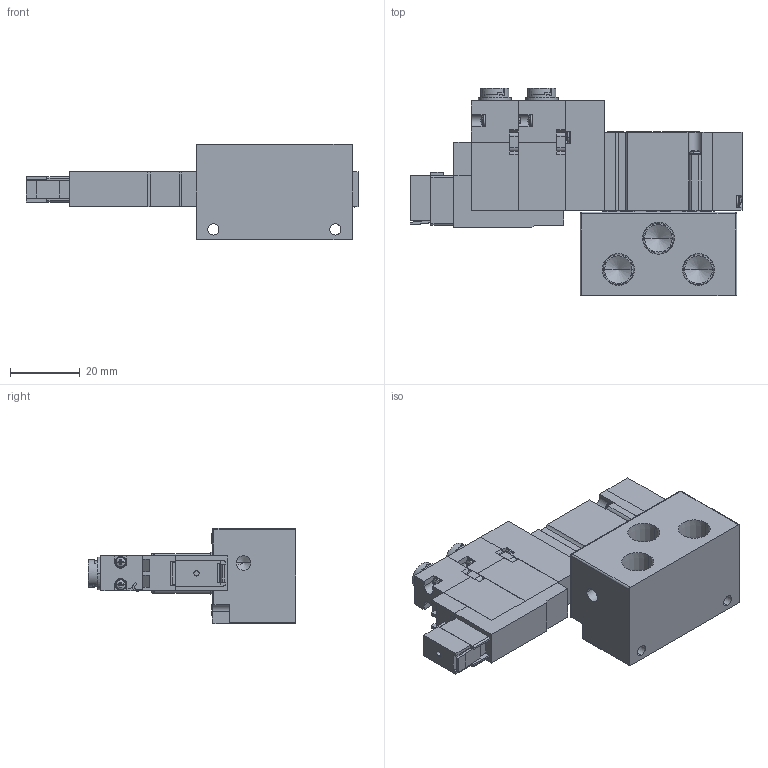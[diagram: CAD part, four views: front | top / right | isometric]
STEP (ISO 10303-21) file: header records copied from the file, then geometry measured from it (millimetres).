
FILE_DESCRIPTION (( 'STEP AP203' ), '1' );
FILE_NAME ('A05GD25-#-#-#-E.STEP', '2016-02-04T01:59:32', ( 'Sam Lin' ), ( '' ), 'SwSTEP 2.0', 'SolidWorks 2013', '' );
FILE_SCHEMA (( 'CONFIG_CONTROL_DESIGN' ));
Length unit declared in the file: metre
Products named in the file (17): 零件11^A05PS25-#-#-#; DC24-A05G-5; DC24-A05G-4; 零件12^A05PS25-#-#-#; DC24-A05G-1; mark-ADEX; DC24-A05G-2; 零件5^A05PS25-#-#-#; A05GD25-#-#-#-E; 零件6^A05PS25-#-#-#; A05P底座; 零件7^A05PS25-#-#-#; 零件2^A05PS25-#-#-#; 零件8^A05PS25-#-#-#; 零件3^A05PS25-#-#-#; DC24-A05G-3; ISO 7045 - M1.6 x 10
Assembly tree (32 placements, depth 2):
  A05GD25-#-#-#-E
    A05P底座
    零件2^A05PS25-#-#-#
    零件3^A05PS25-#-#-#
    ISO 7045 - M1.6 x 10  x10
    DC24-A05G-5
    零件12^A05PS25-#-#-#
    mark-ADEX
    零件5^A05PS25-#-#-#  x2
    零件6^A05PS25-#-#-#  x2
    零件7^A05PS25-#-#-#  x4
    零件8^A05PS25-#-#-#  x2
    DC24-A05G-3
    零件11^A05PS25-#-#-#  x2
    DC24-A05G-4
    DC24-A05G-1
    DC24-A05G-2
Bounding box: 95.3 x 59.6 x 27.5 mm (x, y, z)
Volume: 49403.7 mm3; surface area: 23300.4 mm2
Topology: 40 solids, 40 shells, 1088 faces, 2744 edges, 1741 vertices
Faces by surface type: plane 709, cylinder 195, cone 114, bspline 70
Entity records: 19380 total; most frequent: CARTESIAN_POINT 3348, DIRECTION 2842, ORIENTED_EDGE 2838, EDGE_CURVE 1419, VECTOR 1060, LINE 1060, VERTEX_POINT 933, AXIS2_PLACEMENT_3D 891
